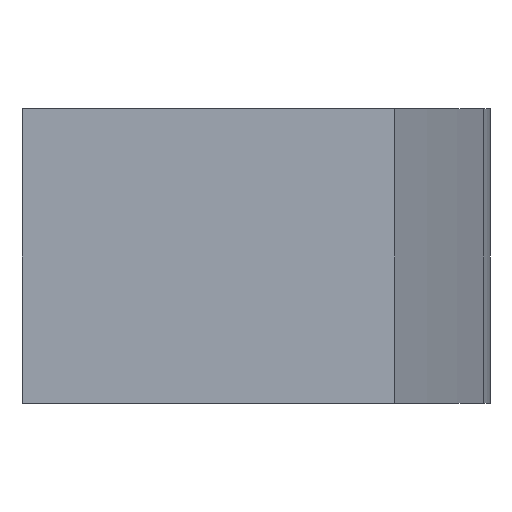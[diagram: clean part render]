
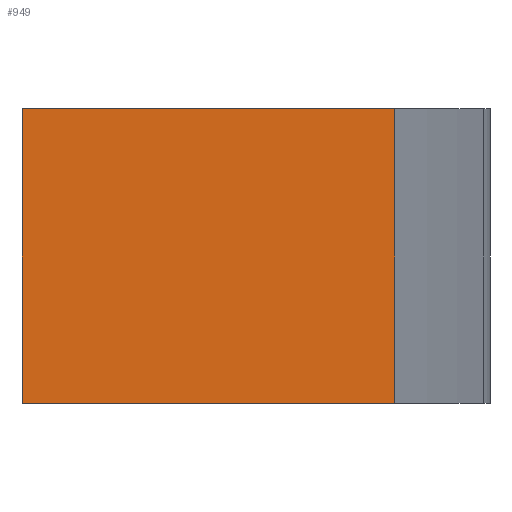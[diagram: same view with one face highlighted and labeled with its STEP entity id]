
A CAD part, left-side view. The second image highlights one B-rep face of the part: STEP entity #949.
In plain terms, the highlighted planar face has unit normal (-1, 0, 0).
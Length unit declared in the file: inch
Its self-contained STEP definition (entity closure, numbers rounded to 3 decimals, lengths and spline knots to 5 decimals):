
#16 = LINE ( 'NONE', #1347, #560 ) ;
#23 = DIRECTION ( 'NONE',  ( 0., 0., 1. ) ) ;
#125 = VERTEX_POINT ( 'NONE', #1643 ) ;
#141 = LINE ( 'NONE', #864, #465 ) ;
#169 = VERTEX_POINT ( 'NONE', #782 ) ;
#180 = VECTOR ( 'NONE', #837, 39.37008 ) ;
#314 = EDGE_CURVE ( 'NONE', #1000, #684, #1791, .T. ) ;
#420 = CARTESIAN_POINT ( 'NONE',  ( -307.51228, -941.50375, -1079.11218 ) ) ;
#465 = VECTOR ( 'NONE', #736, 39.37008 ) ;
#501 = ORIENTED_EDGE ( 'NONE', *, *, #314, .T. ) ;
#560 = VECTOR ( 'NONE', #23, 39.37008 ) ;
#561 = EDGE_CURVE ( 'NONE', #684, #125, #1129, .T. ) ;
#675 = ORIENTED_EDGE ( 'NONE', *, *, #561, .T. ) ;
#684 = VERTEX_POINT ( 'NONE', #1065 ) ;
#736 = DIRECTION ( 'NONE',  ( 0., -1., 0. ) ) ;
#782 = CARTESIAN_POINT ( 'NONE',  ( -307.51228, -941.50375, -1073.45668 ) ) ;
#833 = ORIENTED_EDGE ( 'NONE', *, *, #1211, .F. ) ;
#837 = DIRECTION ( 'NONE',  ( 0., -1., 0. ) ) ;
#863 = DIRECTION ( 'NONE',  ( 0., -1., 0. ) ) ;
#864 = CARTESIAN_POINT ( 'NONE',  ( -307.51228, -941.83697, -1073.45668 ) ) ;
#949 = ADVANCED_FACE ( 'NONE', ( #1147 ), #980, .T. ) ;
#980 = PLANE ( 'NONE',  #1095 ) ;
#1000 = VERTEX_POINT ( 'NONE', #1127 ) ;
#1065 = CARTESIAN_POINT ( 'NONE',  ( -307.51228, -942.10214, -1073.92912 ) ) ;
#1095 = AXIS2_PLACEMENT_3D ( 'NONE', #420, #1599, #863 ) ;
#1104 = ORIENTED_EDGE ( 'NONE', *, *, #1689, .F. ) ;
#1127 = CARTESIAN_POINT ( 'NONE',  ( -307.51228, -941.50375, -1073.92912 ) ) ;
#1129 = LINE ( 'NONE', #1283, #1398 ) ;
#1147 = FACE_OUTER_BOUND ( 'NONE', #1500, .T. ) ;
#1211 = EDGE_CURVE ( 'NONE', #1000, #169, #16, .T. ) ;
#1272 = CARTESIAN_POINT ( 'NONE',  ( -307.51228, -941.83697, -1073.92912 ) ) ;
#1283 = CARTESIAN_POINT ( 'NONE',  ( -307.51228, -942.10214, -1079.11218 ) ) ;
#1347 = CARTESIAN_POINT ( 'NONE',  ( -307.51228, -941.50375, -1073.92912 ) ) ;
#1398 = VECTOR ( 'NONE', #1714, 39.37008 ) ;
#1500 = EDGE_LOOP ( 'NONE', ( #1104, #833, #501, #675 ) ) ;
#1599 = DIRECTION ( 'NONE',  ( -1., 0., 0. ) ) ;
#1643 = CARTESIAN_POINT ( 'NONE',  ( -307.51228, -942.10214, -1073.45668 ) ) ;
#1689 = EDGE_CURVE ( 'NONE', #169, #125, #141, .T. ) ;
#1714 = DIRECTION ( 'NONE',  ( 0., 0., 1. ) ) ;
#1791 = LINE ( 'NONE', #1272, #180 ) ;
